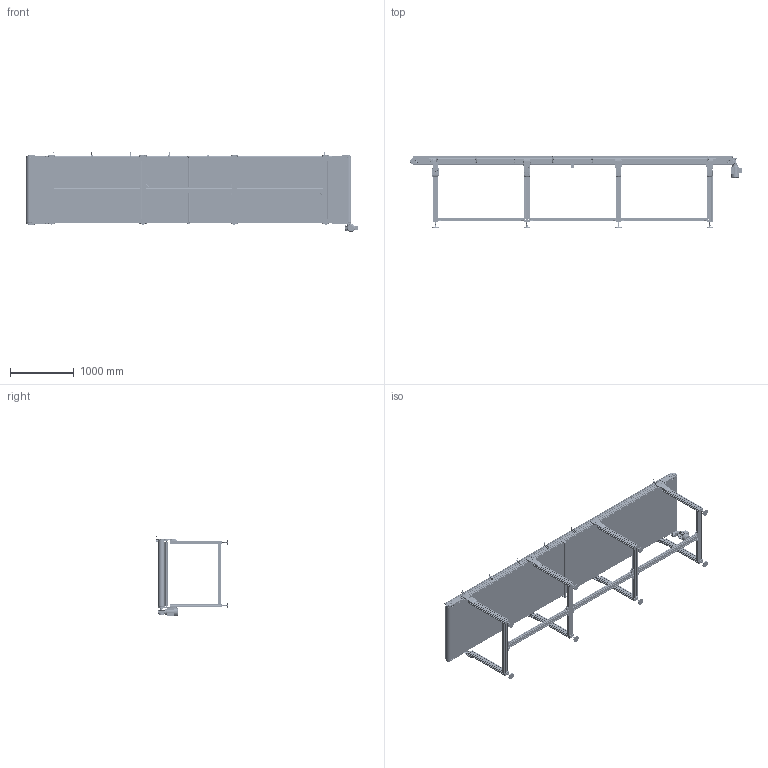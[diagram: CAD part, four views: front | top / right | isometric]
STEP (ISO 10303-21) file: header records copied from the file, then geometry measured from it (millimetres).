
FILE_DESCRIPTION (( 'STEP AP203' ), '1' );
FILE_NAME ('NASTRO_RETTILINEO_TAPPETO.step', '2026-04-24T13:32:03', ( 'Utente Windows' ), ( '' ), 'SwSTEP 2.0', 'SolidWorks 2024', '' );
FILE_SCHEMA (( 'CONFIG_CONTROL_DESIGN' ));
Length unit declared in the file: millimetre
Products named in the file (76): 084.802.060_Default<A macchina>; VITE_RONDELLA_M8X20; 084.303.001; 084.711.010; 084.812.003; 2010.000.072; TRAVERSA_95_Default<A macchina>; RONDELLE UNI 6592_8.4x17 UNI 6592; 084.201.019; 084.812.001; 084.301.000 VITI ALUSIC1_084.301.003; 084.711.006_PER CAVA 8 PERNO ALTO 1; VITI TSEI UNI 5933_M4x12 UNI 5933; 084.808.012; 084.802.019_084.802.019; 2010.000.072_L_Default<A macchina>; 084.302.000 DADI ALUSIC 13x13-1_084.302.004; RULLO_95_Default<A macchina>; GAMBE_D95_Default<A macchina>; BLOCCO_TRAINO_95_STANDARD_CON TENDINASTRO E CARTER; 084.802.014; 2010.000.073; VITI TSEI UNI 5933_M5x12 UNI 5933; 084.405.001; LAMIERA_STANDARD; BLOCCO_REGGITAPPETO; PIEDE_95; 084.808.002_084.808.002; CH04P_SX; CHIAVETTE_A 6x6x60 UNI 6604-69; VITI TE UNI 5739_M6x16 UNI 5739; 084.802.013-2; 084.711.006_L1; VITE_DADO_M5X12; 084.803.003; 084.302.000 DADI ALUSIC 13x13-1_084.302.007; SPONDA_Default<A macchina>; BLOCCO_BRACCIO_CH04P_V2_VF44P V2; CHIAVETTE_A 8x7x20 UNI 6604-69; FLANGIA_GAMBA_95_CON GIUNTI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
Assembly tree (274 placements, depth 4):
  NASTRO_RETTILINEO_TAPPETO
    TAPPETO_STANDARD
    TELAIO_95_STANDARD_Default<A macchina>
    LAMIERA_STANDARD  x3
    RULLO_95_Default<A macchina>  x2
    BLOCCO_PERNO_95_RINVIO  x3
      084.812.003
      084.810.003
      30UNI7435
    BLOCCO_TRAINO_95_STANDARD_CON TENDINASTRO E CARTER
      084.808.002_084.808.002
      084.302.060  x2
      084.802.019_084.802.019
      084.301.000 VITI ALUSIC_084.301.003  x6
      VITI TCEI UNI 5931_M4x25 UNI 5931  x2
      084.802.071
      084.802.068
      VITI TSEI UNI 5933_M4x12 UNI 5933  x2
    BLOCCO_PERNO_95_44
      084.812.001
      084.810.003
      CHIAVETTE_A 6x6x60 UNI 6604-69
      CHIAVETTE_A 8x7x20 UNI 6604-69
      RONDELLE FASCIA LARGA UNI 6593_6.4x24 UNI 6593
      VITI TE UNI 5739_M6x12 UNI 5739
      30UNI7435
    BLOCCO_TRAINO_95_STANDARD_44_SX_SX
      084.802.034_084.802.034
      084.301.000 VITI ALUSIC_084.301.003  x6
      084.808.003_084.808.003
      084.302.060  x2
      VITI TCEI UNI 5931_M4x25 UNI 5931  x2
      084.802.068
      BLOCCO_BRACCIO_CH04P_V2_VF44P V2
        084.808.012
        084.802.062
        084.803.018
        VITI TCEI UNI 5931_M6x12 UNI 5931  x4
        VITI TE UNI 5739_M6x16 UNI 5739  x4
        084.802.060_Default<A macchina>
    BLOCCO_RINVIO_95_STANDARD_CON TENDINASTRO E CARTER  x2
      084.808.002_084.808.002
      084.803.003
      084.302.060
      084.802.019_084.802.019
      VITI TSEI UNI 5933_M4x12 UNI 5933
      084.302.000 DADI ALUSIC 13x13-1_084.302.004
      084.301.000 VITI ALUSIC_084.301.003
      084.802.071
    SPONDA_Default<A macchina>
    084.711.006_PER CAVA 8 PERNO ALTO 1  x6
      084.711.006_L1
      084.711.006_L2
      084.711.007
      084.711.005
      084.711.010
      DADI ESAGONALI NORMALI UNI 5588_M6 UNI 5588
    084.712.002  x2
    GAMBE_D95_Default<A macchina>  x4
    FLANGIA_GAMBA_95_CON GIUNTI
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Bounding box: 5204.1 x 1140.5 x 1252.43 mm (x, y, z)
Volume: 78956162.7 mm3; surface area: 65396482.1 mm2
Topology: 658 solids, 669 shells, 31008 faces, 80175 edges, 50886 vertices
Faces by surface type: plane 13293, cylinder 8888, bspline 3555, cone 2635, torus 2305, sphere 332
Entity records: 304835 total; most frequent: CARTESIAN_POINT 106712, ORIENTED_EDGE 40508, DIRECTION 36451, EDGE_CURVE 20254, VERTEX_POINT 13050, AXIS2_PLACEMENT_3D 12342, VECTOR 11767, LINE 11767
